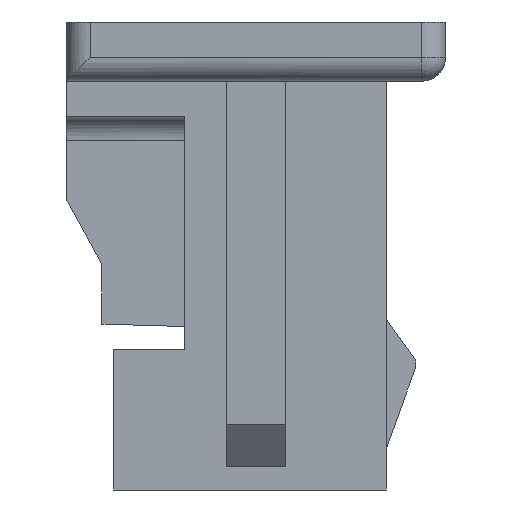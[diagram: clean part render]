
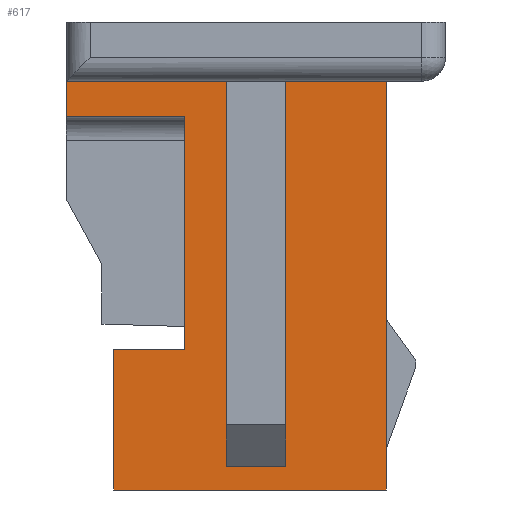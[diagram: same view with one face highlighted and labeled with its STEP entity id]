
A CAD part, left-side view. The second image highlights one B-rep face of the part: STEP entity #617.
In plain terms, the highlighted planar face has unit normal (-1, 0, 0).
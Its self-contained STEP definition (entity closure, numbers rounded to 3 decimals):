
#318=CARTESIAN_POINT('Vertex',(-4.6,1.35,0.2)) ;
#332=CARTESIAN_POINT('Vertex',(-4.6,1.85,0.2)) ;
#335=CARTESIAN_POINT('Line Origine',(-4.6,1.6,0.2)) ;
#382=CARTESIAN_POINT('Vertex',(-4.6,1.85,3.45)) ;
#385=CARTESIAN_POINT('Line Origine',(-4.6,1.85,1.825)) ;
#397=CARTESIAN_POINT('Line Origine',(-4.6,1.35,1.825)) ;
#401=CARTESIAN_POINT('Vertex',(-4.6,1.35,3.45)) ;
#537=CARTESIAN_POINT('Axis2P3D Location',(-4.6,3.2,0.2)) ;
#542=CARTESIAN_POINT('Line Origine',(-4.6,2.5,1.19)) ;
#546=CARTESIAN_POINT('Vertex',(-4.6,2.8,1.19)) ;
#548=CARTESIAN_POINT('Vertex',(-4.6,2.2,1.19)) ;
#551=CARTESIAN_POINT('Line Origine',(-4.6,2.8,0.595)) ;
#555=CARTESIAN_POINT('Vertex',(-4.6,2.8,0.)) ;
#558=CARTESIAN_POINT('Line Origine',(-4.6,1.65,0.)) ;
#562=CARTESIAN_POINT('Vertex',(-4.6,0.5,0.)) ;
#565=CARTESIAN_POINT('Line Origine',(-4.6,0.5,1.725)) ;
#569=CARTESIAN_POINT('Vertex',(-4.6,0.5,3.45)) ;
#572=CARTESIAN_POINT('Line Origine',(-4.6,0.925,3.45)) ;
#577=CARTESIAN_POINT('Line Origine',(-4.6,2.525,3.45)) ;
#581=CARTESIAN_POINT('Vertex',(-4.6,3.2,3.45)) ;
#584=CARTESIAN_POINT('Line Origine',(-4.6,3.2,3.3)) ;
#588=CARTESIAN_POINT('Vertex',(-4.6,3.2,3.15)) ;
#591=CARTESIAN_POINT('Line Origine',(-4.6,2.7,3.15)) ;
#595=CARTESIAN_POINT('Vertex',(-4.6,2.2,3.15)) ;
#598=CARTESIAN_POINT('Line Origine',(-4.6,2.2,2.17)) ;
#336=DIRECTION('Vector Direction',(0.,-1.,0.)) ;
#386=DIRECTION('Vector Direction',(0.,0.,-1.)) ;
#398=DIRECTION('Vector Direction',(0.,0.,-1.)) ;
#538=DIRECTION('Axis2P3D Direction',(-1.,0.,0.)) ;
#539=DIRECTION('Axis2P3D XDirection',(-0.,0.,-1.)) ;
#543=DIRECTION('Vector Direction',(0.,-1.,0.)) ;
#552=DIRECTION('Vector Direction',(0.,0.,1.)) ;
#559=DIRECTION('Vector Direction',(0.,-1.,0.)) ;
#566=DIRECTION('Vector Direction',(0.,0.,-1.)) ;
#573=DIRECTION('Vector Direction',(0.,1.,0.)) ;
#578=DIRECTION('Vector Direction',(0.,1.,0.)) ;
#585=DIRECTION('Vector Direction',(0.,0.,1.)) ;
#592=DIRECTION('Vector Direction',(0.,-1.,0.)) ;
#599=DIRECTION('Vector Direction',(0.,0.,1.)) ;
#540=AXIS2_PLACEMENT_3D('Plane Axis2P3D',#537,#538,#539) ;
#604=ORIENTED_EDGE('',*,*,#550,.F.) ;
#605=ORIENTED_EDGE('',*,*,#557,.F.) ;
#606=ORIENTED_EDGE('',*,*,#564,.T.) ;
#607=ORIENTED_EDGE('',*,*,#571,.F.) ;
#608=ORIENTED_EDGE('',*,*,#576,.F.) ;
#609=ORIENTED_EDGE('',*,*,#403,.F.) ;
#610=ORIENTED_EDGE('',*,*,#339,.F.) ;
#611=ORIENTED_EDGE('',*,*,#389,.F.) ;
#612=ORIENTED_EDGE('',*,*,#583,.F.) ;
#613=ORIENTED_EDGE('',*,*,#590,.F.) ;
#614=ORIENTED_EDGE('',*,*,#597,.T.) ;
#615=ORIENTED_EDGE('',*,*,#602,.F.) ;
#337=VECTOR('Line Direction',#336,1.) ;
#387=VECTOR('Line Direction',#386,1.) ;
#399=VECTOR('Line Direction',#398,1.) ;
#544=VECTOR('Line Direction',#543,1.) ;
#553=VECTOR('Line Direction',#552,1.) ;
#560=VECTOR('Line Direction',#559,1.) ;
#567=VECTOR('Line Direction',#566,1.) ;
#574=VECTOR('Line Direction',#573,1.) ;
#579=VECTOR('Line Direction',#578,1.) ;
#586=VECTOR('Line Direction',#585,1.) ;
#593=VECTOR('Line Direction',#592,1.) ;
#600=VECTOR('Line Direction',#599,1.) ;
#617=ADVANCED_FACE('\X2\96F64EF651E04F554F53\X0\',(#616),#541,.T.) ;
#339=EDGE_CURVE('',#333,#319,#338,.T.) ;
#389=EDGE_CURVE('',#383,#333,#388,.T.) ;
#403=EDGE_CURVE('',#319,#402,#400,.F.) ;
#550=EDGE_CURVE('',#547,#549,#545,.T.) ;
#557=EDGE_CURVE('',#556,#547,#554,.T.) ;
#564=EDGE_CURVE('',#556,#563,#561,.T.) ;
#571=EDGE_CURVE('',#570,#563,#568,.T.) ;
#576=EDGE_CURVE('',#402,#570,#575,.F.) ;
#583=EDGE_CURVE('',#582,#383,#580,.F.) ;
#590=EDGE_CURVE('',#589,#582,#587,.T.) ;
#597=EDGE_CURVE('',#589,#596,#594,.T.) ;
#602=EDGE_CURVE('',#549,#596,#601,.T.) ;
#603=EDGE_LOOP('',(#604,#605,#606,#607,#608,#609,#610,#611,#612,#613,#614,#615)) ;
#616=FACE_OUTER_BOUND('',#603,.T.) ;
#338=LINE('Line',#335,#337) ;
#388=LINE('Line',#385,#387) ;
#400=LINE('Line',#397,#399) ;
#545=LINE('Line',#542,#544) ;
#554=LINE('Line',#551,#553) ;
#561=LINE('Line',#558,#560) ;
#568=LINE('Line',#565,#567) ;
#575=LINE('Line',#572,#574) ;
#580=LINE('Line',#577,#579) ;
#587=LINE('Line',#584,#586) ;
#594=LINE('Line',#591,#593) ;
#601=LINE('Line',#598,#600) ;
#541=PLANE('Plane',#540) ;
#319=VERTEX_POINT('',#318) ;
#333=VERTEX_POINT('',#332) ;
#383=VERTEX_POINT('',#382) ;
#402=VERTEX_POINT('',#401) ;
#547=VERTEX_POINT('',#546) ;
#549=VERTEX_POINT('',#548) ;
#556=VERTEX_POINT('',#555) ;
#563=VERTEX_POINT('',#562) ;
#570=VERTEX_POINT('',#569) ;
#582=VERTEX_POINT('',#581) ;
#589=VERTEX_POINT('',#588) ;
#596=VERTEX_POINT('',#595) ;
